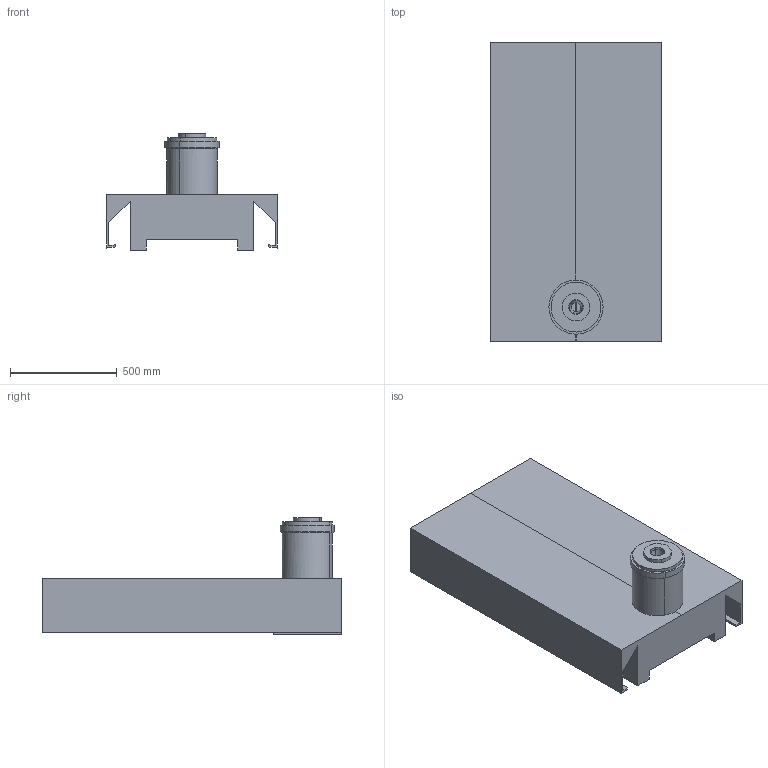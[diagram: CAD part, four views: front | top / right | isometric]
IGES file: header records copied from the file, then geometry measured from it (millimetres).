
Start section: START RECORD GO HERE.
Global section: file name: broche-Y.igs; native system: IBM CATIA IGES - CATIA Version 5 Release 10 ; preprocessor: CATIA Version 5 Release 10 ; date: 20030711.122059; units: millimetre
Bounding box: 800 x 1400 x 545 mm (x, y, z)
Surface area: 4312956.5 mm2 (no closed solid volume)
Topology: 0 solids, 0 shells, 54 faces, 260 edges, 260 vertices
Faces by surface type: plane 36, revolution 18
